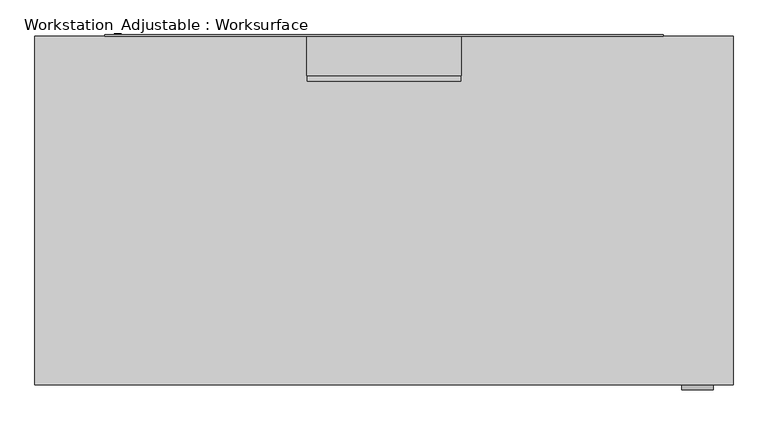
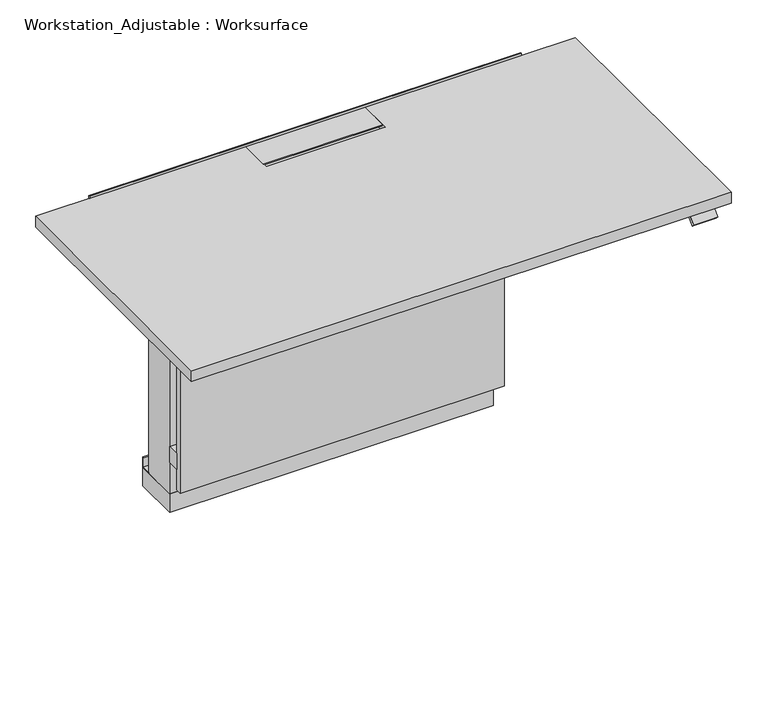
"""IFC4 building model written with IfcOpenShell, lengths in millimetres: furniture geometry, Workstation_Adjustable : Worksurface."""

from ifc_helpers import new_model, si_unit, frame, origin, origin_with_axes, place, context, project, spatial, polyline, outline, extrude, faceted_brep, source, transform, mapped, element, save


def workstation_adjustable_worksurface_a07f1c97(model_context):
    return source(origin(), model_context, "Body", "SolidModel", [
        extrude(outline(polyline([(-752.4201976, 882.65), (-701.8734375, 882.65), (-701.8734375, 869.7517789), (-753.8937348, 869.7517789), (-768.677545, 854.9679687), (-775.2953125, 861.5857362), (-757.9809444, 878.9001044), (-752.4201976, 878.9001044), (-752.4201976, 882.65)])), frame((650.24, 0.0, 0.0), z_axis=(1.0, 0.0, 0.0), x_axis=(0.0, 1.0, 0.0)), (0.0, 0.0, 1.0), 68.58),
        extrude(outline(polyline([(609.6, 0.0), (609.6, -3.175), (-609.6, -3.175), (-609.6, 0.0), (609.6, 0.0)])), frame((0.0, 0.0, 882.65), z_axis=(0.0, 0.0, 1.0), x_axis=(1.0, 0.0, 0.0)), (0.0, 0.0, 1.0), 38.1),
        extrude(outline(polyline([(168.275, -3.175), (168.275, -89.535), (-168.275, -89.535), (-168.275, -3.175), (168.275, -3.175)])), frame((0.0, 0.0, 911.225), z_axis=(0.0, 0.0, 1.0), x_axis=(1.0, 0.0, 0.0)), (0.0, 0.0, 1.0), 3.175),
        faceted_brep([(-762.0, -3.175, 914.4), (-762.0, -765.175, 914.4), (762.0, -765.175, 914.4), (762.0, -3.175, 914.4), (168.275, -3.175, 914.4), (168.275, -102.235, 914.4), (-168.275, -102.235, 914.4), (-168.275, -3.175, 914.4), (762.0, -3.175, 882.65), (762.0, -765.175, 882.65), (-762.0, -765.175, 882.65), (-762.0, -3.175, 882.65), (-168.275, -3.175, 895.35), (168.275, -3.175, 895.35), (-168.275, -102.235, 895.35), (168.275, -102.235, 895.35)], [[[0, 1, 2, 3, 4, 5, 6, 7]], [[8, 9, 10, 11]], [[8, 11, 0, 7, 12, 13, 4, 3]], [[1, 0, 11, 10]], [[2, 1, 10, 9]], [[3, 2, 9, 8]], [[14, 15, 13, 12]], [[15, 14, 6, 5]], [[13, 15, 5, 4]], [[14, 12, 7, 6]]]),
        extrude(outline(polyline([(-577.3336445, 882.65), (-130.9634162, 882.65), (-130.9634162, 830.4520227), (-577.3336445, 861.6652697), (-577.3336445, 882.65)])), frame((-443.5, 0.0, 0.0), z_axis=(1.0, 0.0, 0.0), x_axis=(0.0, 1.0, 0.0)), (0.0, 0.0, 1.0), 66.675),
        extrude(outline(polyline([(-577.3336445, 882.65), (-130.9634162, 882.65), (-130.9634162, 830.6741833), (-577.3336445, 861.6652697), (-577.3336445, 882.65)])), frame((376.825, 0.0, 0.0), z_axis=(1.0, 0.0, 0.0), x_axis=(0.0, 1.0, 0.0)), (0.0, 0.0, 1.0), 66.675),
        extrude(outline(polyline([(443.5, -28.9460464), (443.5, -130.9634162), (-443.5, -130.9634162), (-443.5, -28.9460464), (443.5, -28.9460464)])), frame((0.0, 0.0, 647.7), z_axis=(0.0, 0.0, 1.0), x_axis=(1.0, 0.0, 0.0)), (0.0, 0.0, 1.0), 234.95),
        extrude(outline(polyline([(457.2, -130.9634162), (457.2, -165.1), (-457.2, -165.1), (-457.2, -130.9634162), (457.2, -130.9634162)])), frame((0.0, 0.0, 532.2152261), z_axis=(0.0, 0.0, 1.0), x_axis=(1.0, 0.0, 0.0)), (0.0, 0.0, 1.0), 47.8582985),
        extrude(outline(polyline([(457.2, -130.9634162), (457.2, -165.1), (-457.2, -165.1), (-457.2, -130.9634162), (457.2, -130.9634162)])), frame((0.0, 0.0, 149.1838463), z_axis=(0.0, 0.0, 1.0), x_axis=(1.0, 0.0, 0.0)), (0.0, 0.0, 1.0), 47.8582985),
        extrude(outline(polyline([(457.2, -165.1), (457.2, -183.0311159), (-457.2, -183.0311159), (-457.2, -165.1), (457.2, -165.1)])), frame((0.0, 0.0, 88.9), z_axis=(0.0, 0.0, 1.0), x_axis=(1.0, 0.0, 0.0)), (0.0, 0.0, 1.0), 558.8),
        extrude(outline(polyline([(457.2, 0.0), (457.2, -165.1), (-457.2, -165.1), (-457.2, 0.0), (457.2, 0.0)])), frame((0.0, 0.0, 628.6379484), z_axis=(0.0, 0.0, 1.0), x_axis=(1.0, 0.0, 0.0)), (0.0, 0.0, 1.0), 19.0620516),
        extrude(outline(polyline([(-15.0025037, 489.2598982), (-3.8829287, 489.2598982), (-3.8829287, 624.4492909), (-30.0050612, 624.4492909), (-30.0050612, 628.6379484), (0.0, 628.6379484), (0.0, 485.2002965), (-15.0025037, 485.2002965), (-15.0025037, 489.2598982)])), frame((-457.2, 0.0, 0.0), z_axis=(1.0, 0.0, 0.0), x_axis=(0.0, 1.0, 0.0)), (0.0, 0.0, 1.0), 914.4),
        extrude(outline(polyline([(0.0, 85.9815469), (0.0, 55.9507362), (-30.0050612, 55.9507362), (-30.0050612, 59.0724938), (-3.0004253, 59.0724938), (-3.0004253, 85.9815469), (0.0, 85.9815469)])), frame((-457.2, 0.0, 0.0), z_axis=(1.0, 0.0, 0.0), x_axis=(0.0, 1.0, 0.0)), (0.0, 0.0, 1.0), 914.4),
        extrude(outline(polyline([(457.2, -30.0050612), (457.2, -130.9634162), (-457.2, -130.9634162), (-457.2, -30.0050612), (457.2, -30.0050612)])), frame((0.0, 0.0, 55.9507362), z_axis=(0.0, 0.0, 1.0), x_axis=(1.0, 0.0, 0.0)), (0.0, 0.0, 1.0), 572.6872123),
        extrude(outline(polyline([(457.2, 0.0), (457.2, -130.9634162), (-457.2, -130.9634162), (-457.2, 0.0), (457.2, 0.0)])), origin_with_axes(), (0.0, 0.0, 1.0), 55.9507362),
    ])


if __name__ == "__main__":
    model = new_model("IFC4")
    model_context = context("Model", 3, world=origin())
    ifc_project = project(units=[si_unit("LENGTHUNIT", "METRE", prefix="MILLI")], contexts=[model_context])
    site = spatial("IfcSite", under=ifc_project)
    building = spatial("IfcBuilding", under=site)
    placement = place(None, origin())
    workstation_adjustable_worksurface_shape = workstation_adjustable_worksurface_a07f1c97(model_context)
    element("IfcFurniture", 1, ObjectType="Workstation_Adjustable : Worksurface", at=placement, inside=building, context=model_context, shape_type="MappedRepresentation", body=[
        mapped(workstation_adjustable_worksurface_shape, transform((0.0, 0.0, 0.0), x_axis=(1.0, 0.0, 0.0), y_axis=(0.0, 1.0, 0.0), z_axis=(0.0, 0.0, 1.0))),
    ])
    save(model, "model.ifc")
